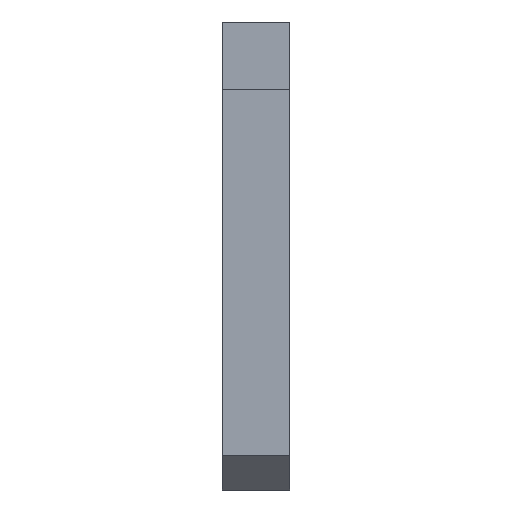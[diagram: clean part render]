
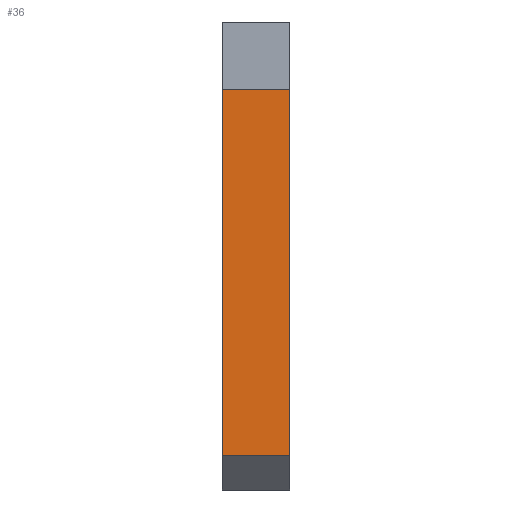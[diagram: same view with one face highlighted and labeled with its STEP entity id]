
A CAD part, left-side view. The second image highlights one B-rep face of the part: STEP entity #36.
In plain terms, the highlighted planar face has unit normal (-1, 0, 0).
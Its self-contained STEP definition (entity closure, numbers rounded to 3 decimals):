
#36=ADVANCED_FACE('',(#93),#993,.T.);
#93=FACE_OUTER_BOUND('',#150,.T.);
#150=EDGE_LOOP('',(#246,#247,#248,#249));
#246=ORIENTED_EDGE('',*,*,#568,.T.);
#247=ORIENTED_EDGE('',*,*,#569,.T.);
#248=ORIENTED_EDGE('',*,*,#570,.F.);
#249=ORIENTED_EDGE('',*,*,#566,.F.);
#566=EDGE_CURVE('',#888,#889,#743,.T.);
#568=EDGE_CURVE('',#888,#890,#745,.T.);
#569=EDGE_CURVE('',#890,#891,#746,.T.);
#570=EDGE_CURVE('',#889,#891,#747,.T.);
#743=B_SPLINE_CURVE_WITH_KNOTS('',1,(#1426,#1427),.UNSPECIFIED.,.F.,.F.,
(2,2),(0.,5.),.UNSPECIFIED.);
#745=B_SPLINE_CURVE_WITH_KNOTS('',1,(#1430,#1431),.UNSPECIFIED.,.F.,.F.,
(2,2),(24.843,25.843),.UNSPECIFIED.);
#746=B_SPLINE_CURVE_WITH_KNOTS('',1,(#1432,#1433),.UNSPECIFIED.,.F.,.F.,
(2,2),(0.,5.),.UNSPECIFIED.);
#747=B_SPLINE_CURVE_WITH_KNOTS('',1,(#1434,#1435),.UNSPECIFIED.,.F.,.F.,
(2,2),(24.843,25.843),.UNSPECIFIED.);
#888=VERTEX_POINT('',#1280);
#889=VERTEX_POINT('',#1281);
#890=VERTEX_POINT('',#1282);
#891=VERTEX_POINT('',#1283);
#993=PLANE('',#1066);
#1066=AXIS2_PLACEMENT_3D('',#1178,#1122,$);
#1122=DIRECTION('',(-1.,0.,0.));
#1178=CARTESIAN_POINT('',(-95.62,-43.015,337.469));
#1280=CARTESIAN_POINT('',(-95.62,-43.015,337.469));
#1281=CARTESIAN_POINT('',(-95.62,-48.015,337.469));
#1282=CARTESIAN_POINT('',(-95.62,-43.015,310.235));
#1283=CARTESIAN_POINT('',(-95.62,-48.015,310.235));
#1426=CARTESIAN_POINT('',(-95.62,-43.015,337.469));
#1427=CARTESIAN_POINT('',(-95.62,-48.015,337.469));
#1430=CARTESIAN_POINT('',(-95.62,-43.015,337.469));
#1431=CARTESIAN_POINT('',(-95.62,-43.015,310.235));
#1432=CARTESIAN_POINT('',(-95.62,-43.015,310.235));
#1433=CARTESIAN_POINT('',(-95.62,-48.015,310.235));
#1434=CARTESIAN_POINT('',(-95.62,-48.015,337.469));
#1435=CARTESIAN_POINT('',(-95.62,-48.015,310.235));
